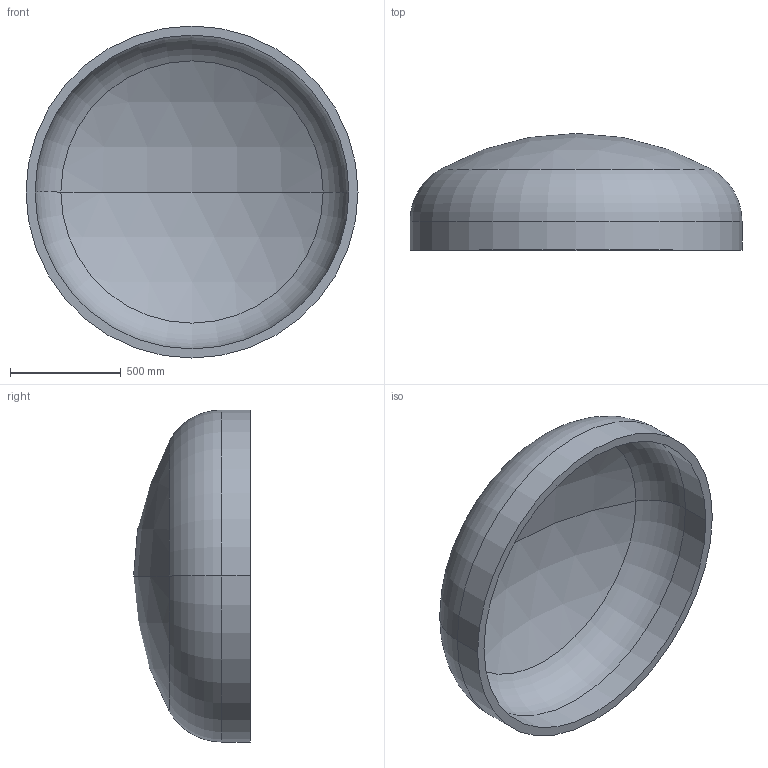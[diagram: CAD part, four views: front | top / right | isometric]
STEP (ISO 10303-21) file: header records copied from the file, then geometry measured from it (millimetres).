
FILE_DESCRIPTION (( 'STEP AP203' ), '1' );
FILE_NAME ('DIN 28013 Korbbogenform_-_Boden DIN 28013 - 1500 x 130 - I - s=41.step', '2016-07-01T10:45:59', ( '' ), ( '' ), 'SwSTEP 2.0', 'SolidWorks 2013', '' );
FILE_SCHEMA (( 'CONFIG_CONTROL_DESIGN' ));
Length unit declared in the file: millimetre
Products named in the file (1): DIN 28013 Korbbogenform_-_Boden DIN 28013 - 1500 x 130 - I - s=41
Bounding box: 1500 x 527.52 x 1500 mm (x, y, z)
Volume: 121165504.5 mm3; surface area: 6101958.3 mm2
Topology: 1 solids, 1 shells, 13 faces, 24 edges, 14 vertices
Faces by surface type: torus 4, cylinder 4, sphere 4, plane 1
Entity records: 407 total; most frequent: DIRECTION 72, CARTESIAN_POINT 52, ORIENTED_EDGE 48, AXIS2_PLACEMENT_3D 34, EDGE_CURVE 24, CIRCLE 20, EDGE_LOOP 14, VERTEX_POINT 14
